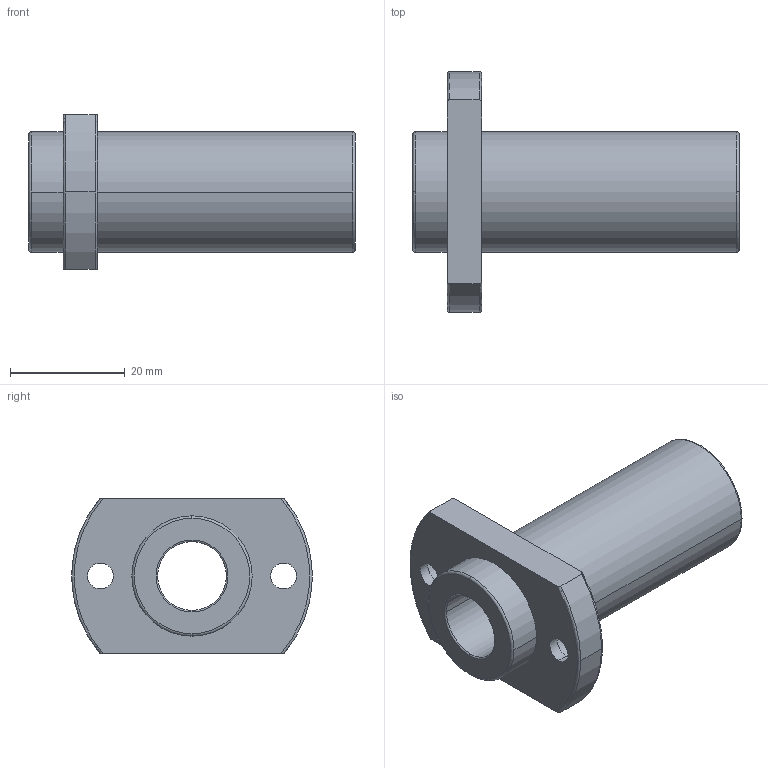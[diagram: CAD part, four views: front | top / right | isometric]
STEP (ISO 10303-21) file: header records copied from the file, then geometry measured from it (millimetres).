
FILE_DESCRIPTION(('FreeCAD Model'),'2;1');
FILE_NAME('Open CASCADE Shape Model','2021-05-03T14:46:15',('Author'),( ''),'Open CASCADE STEP processor 7.5','FreeCAD','Unknown');
FILE_SCHEMA(('AUTOMOTIVE_DESIGN { 1 0 10303 214 1 1 1 1 }'));
Length unit declared in the file: millimetre
Products named in the file (1): linear_lmhp12luu
Bounding box: 57 x 42 x 27 mm (x, y, z)
Volume: 17085.4 mm3; surface area: 8254.7 mm2
Topology: 1 solids, 1 shells, 38 faces, 100 edges, 68 vertices
Faces by surface type: cylinder 18, torus 12, plane 8
Entity records: 3552 total; most frequent: CARTESIAN_POINT 1515, DIRECTION 400, ORIENTED_EDGE 200, PCURVE 200, DEFINITIONAL_REPRESENTATION 200, LINE 172, VECTOR 172, AXIS2_PLACEMENT_3D 107
